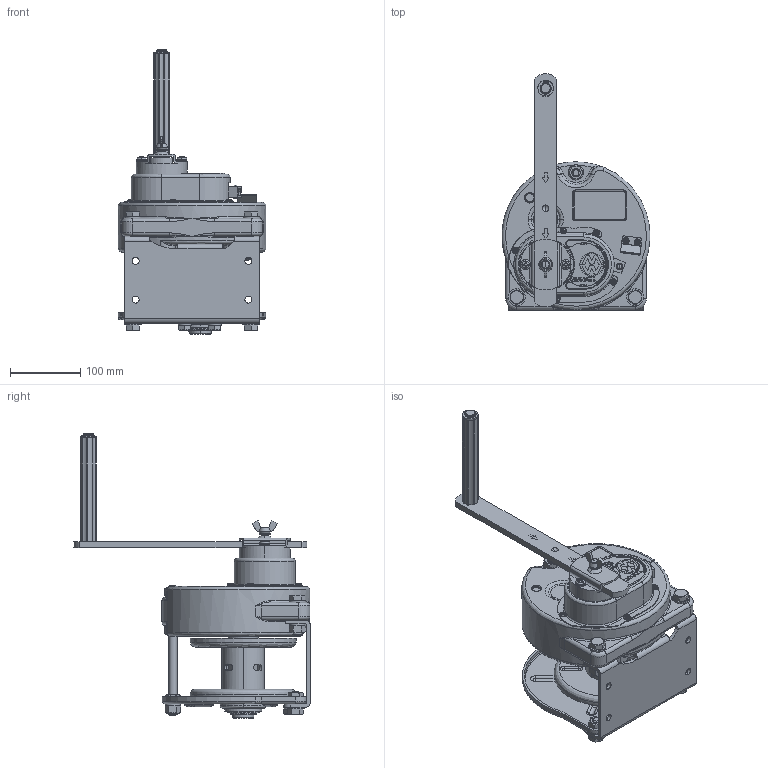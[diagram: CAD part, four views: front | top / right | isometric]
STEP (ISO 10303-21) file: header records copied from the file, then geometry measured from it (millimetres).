
FILE_DESCRIPTION( (''), '2;1');
FILE_NAME ('GM-3-SD60.stp','2024-01-09T10:12:36',(''),(''),'spGate 19.8.2 (****-****-****-****)','','');
FILE_SCHEMA (('AUTOMOTIVE_DESIGN'));
Length unit declared in the file: millimetre
Products named in the file (3): Assembly; GM-3-SD60-prt0; GM-3-SD60-prt1
Assembly tree (2 placements, depth 2):
  Assembly
    GM-3-SD60-prt0
    GM-3-SD60-prt1
Bounding box: 209.96 x 335.43 x 403.5 mm (x, y, z)
Volume: 3536422.9 mm3; surface area: 544043 mm2
Topology: 2 solids, 2 shells, 2578 faces, 6702 edges, 4199 vertices
Faces by surface type: plane 1213, cylinder 831, bspline 462, sphere 72
Entity records: 141343 total; most frequent: CARTESIAN_POINT 26974, ORIENTED_EDGE 13266, DIRECTION 12615, COLOUR_RGB 9213, PRESENTATION_STYLE_ASSIGNMENT 9213, STYLED_ITEM 9213, EDGE_CURVE 6633, DRAUGHTING_PRE_DEFINED_CURVE_FONT 6633
